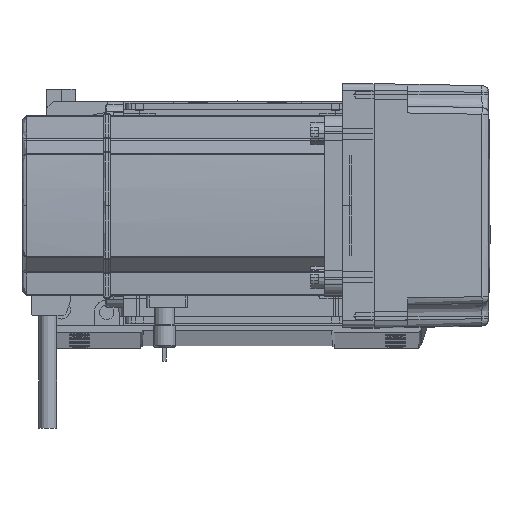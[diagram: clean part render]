
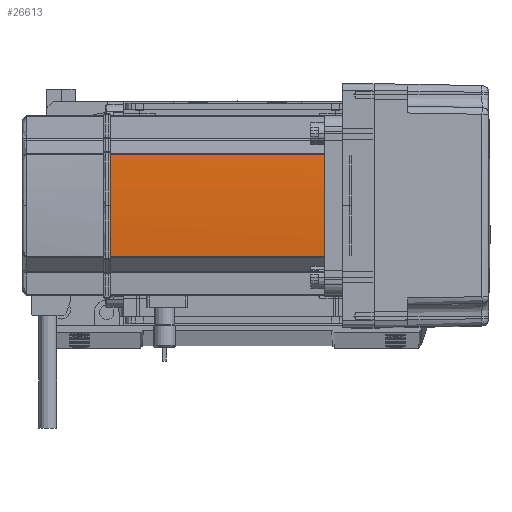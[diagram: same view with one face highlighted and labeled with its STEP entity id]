
A CAD part, top view. The second image highlights one B-rep face of the part: STEP entity #26613.
In plain terms, the highlighted cylindrical face has radius 270 mm (diameter 540 mm), a partial arc.
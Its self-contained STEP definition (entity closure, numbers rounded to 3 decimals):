
#247 = DIRECTION ( 'NONE',  ( 0., 0., -1. ) ) ;
#3552 = CARTESIAN_POINT ( 'NONE',  ( -39.042, -22.724, 134. ) ) ;
#4446 = DIRECTION ( 'NONE',  ( 0., 0., 1. ) ) ;
#5782 = ORIENTED_EDGE ( 'NONE', *, *, #68641, .T. ) ;
#7108 = VERTEX_POINT ( 'NONE', #3552 ) ;
#8038 = CIRCLE ( 'NONE', #8830, 270. ) ;
#8830 = AXIS2_PLACEMENT_3D ( 'NONE', #58649, #247, #64049 ) ;
#10460 = AXIS2_PLACEMENT_3D ( 'NONE', #30017, #51879, #19121 ) ;
#13202 = EDGE_LOOP ( 'NONE', ( #5782, #38090, #55778, #13589, #40823 ) ) ;
#13589 = ORIENTED_EDGE ( 'NONE', *, *, #37574, .F. ) ;
#14804 = VECTOR ( 'NONE', #4446, 1000. ) ;
#16572 = EDGE_CURVE ( 'NONE', #32882, #63982, #17555, .T. ) ;
#17555 = LINE ( 'NONE', #46019, #35238 ) ;
#17845 = DIRECTION ( 'NONE',  ( 1., 0., 0. ) ) ;
#18266 = LINE ( 'NONE', #26107, #14804 ) ;
#19109 = CARTESIAN_POINT ( 'NONE',  ( -39.042, -22.724, 39. ) ) ;
#19121 = DIRECTION ( 'NONE',  ( 1., 0., 0. ) ) ;
#22758 = AXIS2_PLACEMENT_3D ( 'NONE', #69729, #26148, #69240 ) ;
#24562 = DIRECTION ( 'NONE',  ( 0., 0., -1. ) ) ;
#26107 = CARTESIAN_POINT ( 'NONE',  ( -39.042, -22.724, 0. ) ) ;
#26148 = DIRECTION ( 'NONE',  ( 0., 0., -1. ) ) ;
#26149 = AXIS2_PLACEMENT_3D ( 'NONE', #61166, #50142, #17845 ) ;
#26383 = CYLINDRICAL_SURFACE ( 'NONE', #10460, 270. ) ;
#26613 = ADVANCED_FACE ( 'NONE', ( #29815 ), #26383, .T. ) ;
#28835 = CIRCLE ( 'NONE', #22758, 270. ) ;
#29557 = EDGE_CURVE ( 'NONE', #46923, #7108, #18266, .T. ) ;
#29815 = FACE_OUTER_BOUND ( 'NONE', #13202, .T. ) ;
#30017 = CARTESIAN_POINT ( 'NONE',  ( 230., 0., 0. ) ) ;
#32882 = VERTEX_POINT ( 'NONE', #40335 ) ;
#33064 = CARTESIAN_POINT ( 'NONE',  ( -39.042, 22.724, 39. ) ) ;
#35238 = VECTOR ( 'NONE', #24562, 1000. ) ;
#37574 = EDGE_CURVE ( 'NONE', #46923, #63982, #45657, .T. ) ;
#38090 = ORIENTED_EDGE ( 'NONE', *, *, #61178, .T. ) ;
#40335 = CARTESIAN_POINT ( 'NONE',  ( -39.042, 22.724, 134. ) ) ;
#40823 = ORIENTED_EDGE ( 'NONE', *, *, #29557, .T. ) ;
#45657 = CIRCLE ( 'NONE', #26149, 270. ) ;
#46019 = CARTESIAN_POINT ( 'NONE',  ( -39.042, 22.724, 0. ) ) ;
#46923 = VERTEX_POINT ( 'NONE', #19109 ) ;
#49204 = VERTEX_POINT ( 'NONE', #61352 ) ;
#50142 = DIRECTION ( 'NONE',  ( 0., 0., -1. ) ) ;
#51879 = DIRECTION ( 'NONE',  ( 0., 0., 1. ) ) ;
#55778 = ORIENTED_EDGE ( 'NONE', *, *, #16572, .T. ) ;
#58649 = CARTESIAN_POINT ( 'NONE',  ( 230., 0., 134. ) ) ;
#61166 = CARTESIAN_POINT ( 'NONE',  ( 230., 0., 39. ) ) ;
#61178 = EDGE_CURVE ( 'NONE', #49204, #32882, #8038, .T. ) ;
#61352 = CARTESIAN_POINT ( 'NONE',  ( -40., 0., 134. ) ) ;
#63982 = VERTEX_POINT ( 'NONE', #33064 ) ;
#64049 = DIRECTION ( 'NONE',  ( 1., 0., 0. ) ) ;
#68641 = EDGE_CURVE ( 'NONE', #7108, #49204, #28835, .T. ) ;
#69240 = DIRECTION ( 'NONE',  ( 1., 0., 0. ) ) ;
#69729 = CARTESIAN_POINT ( 'NONE',  ( 230., 0., 134. ) ) ;
